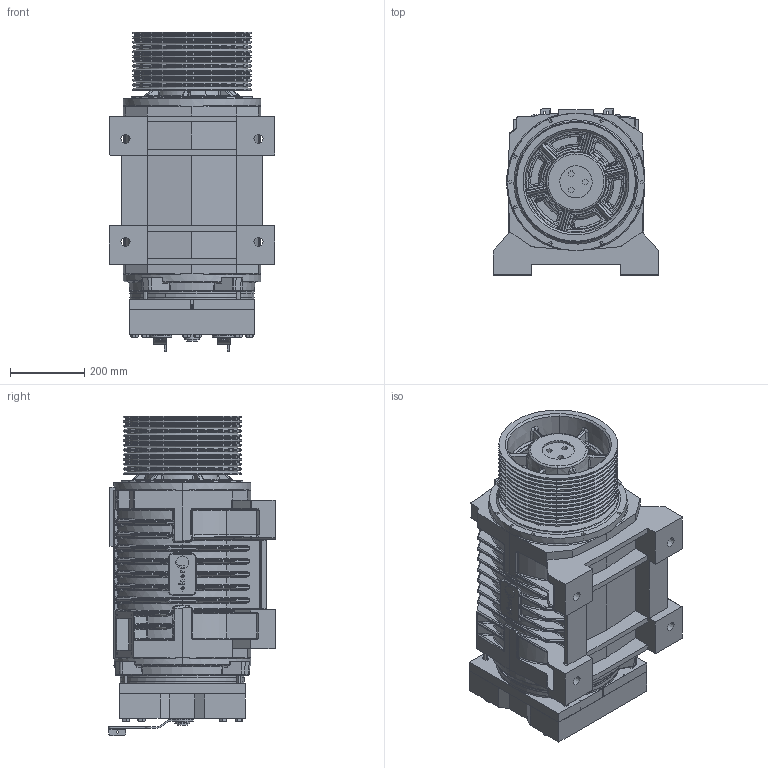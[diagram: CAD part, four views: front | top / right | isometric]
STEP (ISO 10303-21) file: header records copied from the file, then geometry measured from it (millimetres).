
FILE_DESCRIPTION (( 'STEP AP214' ), '1' );
FILE_NAME ('QS632300100.STEP', '2026-01-13T14:38:12', ( '' ), ( '' ), 'SwSTEP 2.0', 'SolidWorks 2023', '' );
FILE_SCHEMA (( 'AUTOMOTIVE_DESIGN' ));
Length unit declared in the file: millimetre
Products named in the file (1): QS632300100
Bounding box: 445.91 x 447.8 x 861.77 mm (x, y, z)
Topology: 63 solids, 66 shells, 4311 faces, 10218 edges, 6050 vertices
Faces by surface type: cylinder 1377, plane 1106, bspline 691, cone 465, sphere 360, torus 312
Entity records: 152164 total; most frequent: CARTESIAN_POINT 57264, ORIENTED_EDGE 20004, DIRECTION 19632, EDGE_CURVE 10002, AXIS2_PLACEMENT_3D 8027, VERTEX_POINT 6012, EDGE_LOOP 4680, CIRCLE 4406
